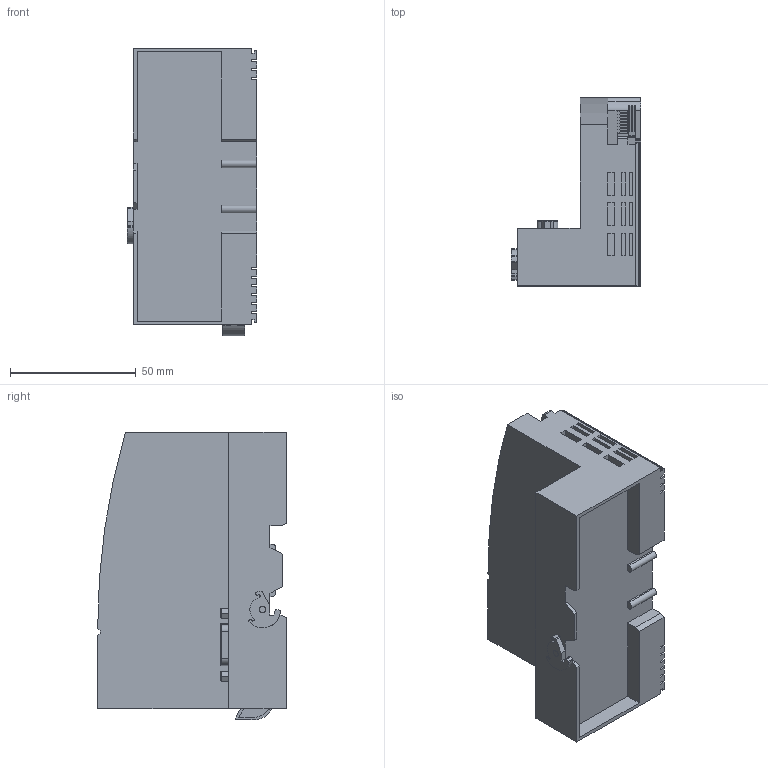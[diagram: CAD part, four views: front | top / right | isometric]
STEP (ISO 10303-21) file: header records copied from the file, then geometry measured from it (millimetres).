
FILE_DESCRIPTION (( 'STEP AP214' ), '1' );
FILE_NAME ('CN8012.STEP', '2023-07-12T07:42:02', ( '' ), ( '' ), 'SwSTEP 2.0', 'SolidWorks 2021', '' );
FILE_SCHEMA (( 'AUTOMOTIVE_DESIGN' ));
Length unit declared in the file: millimetre
Products named in the file (1): CN8012
Bounding box: 51.3 x 75 x 114.4 mm (x, y, z)
Volume: 214940.2 mm3; surface area: 42248 mm2
Topology: 1 solids, 1 shells, 774 faces, 2063 edges, 1367 vertices
Faces by surface type: plane 619, cylinder 94, bspline 52, torus 9
Entity records: 26553 total; most frequent: CARTESIAN_POINT 7419, ORIENTED_EDGE 4126, DIRECTION 3571, EDGE_CURVE 2063, VECTOR 1765, LINE 1765, VERTEX_POINT 1367, AXIS2_PLACEMENT_3D 903
